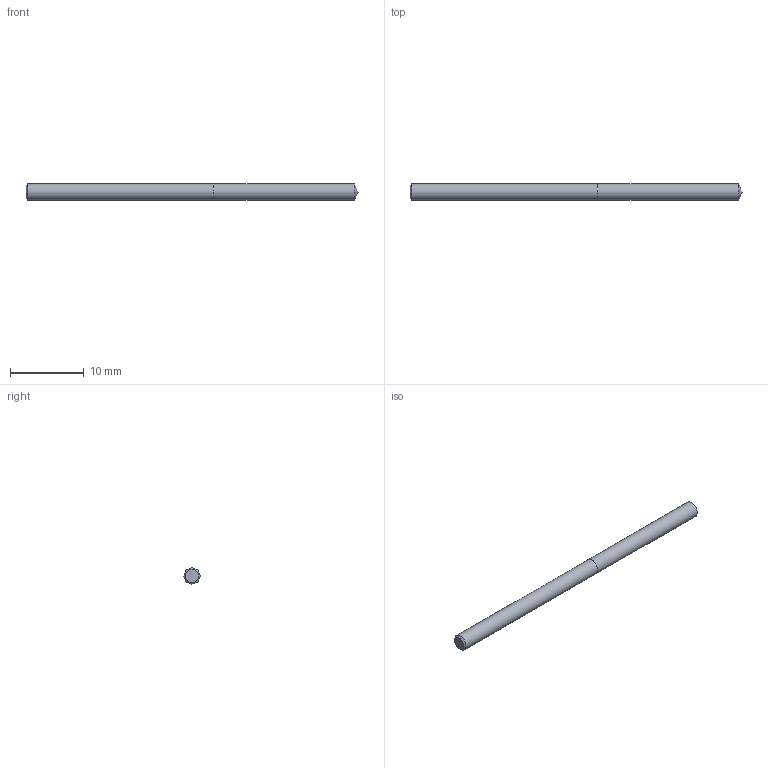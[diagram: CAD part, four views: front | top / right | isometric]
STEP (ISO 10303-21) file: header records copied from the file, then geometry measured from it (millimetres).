
FILE_DESCRIPTION (( 'STEP AP214' ), '1' );
FILE_NAME ('03-2386.STEP', '2022-06-03T07:04:23', ( 'USER' ), ( '' ), 'SwSTEP 2.0', 'SolidWorks 2018', '' );
FILE_SCHEMA (( 'AUTOMOTIVE_DESIGN' ));
Length unit declared in the file: inch
Products named in the file (1): 03-2386
Bounding box: 44.9 x 2.18 x 2.18 mm (x, y, z)
Volume: 167 mm3; surface area: 319.4 mm2
Topology: 2 solids, 2 shells, 7 faces, 11 edges, 7 vertices
Faces by surface type: plane 3, cylinder 2, cone 2
Full cylindrical faces by diameter (mm): 2.184 x2
Entity records: 214 total; most frequent: DIRECTION 26, CARTESIAN_POINT 18, AXIS2_PLACEMENT_3D 13, EDGE_LOOP 10, ORIENTED_EDGE 10, FACE_OUTER_BOUND 9, DIMENSIONAL_EXPONENTS 7, ADVANCED_FACE 7
